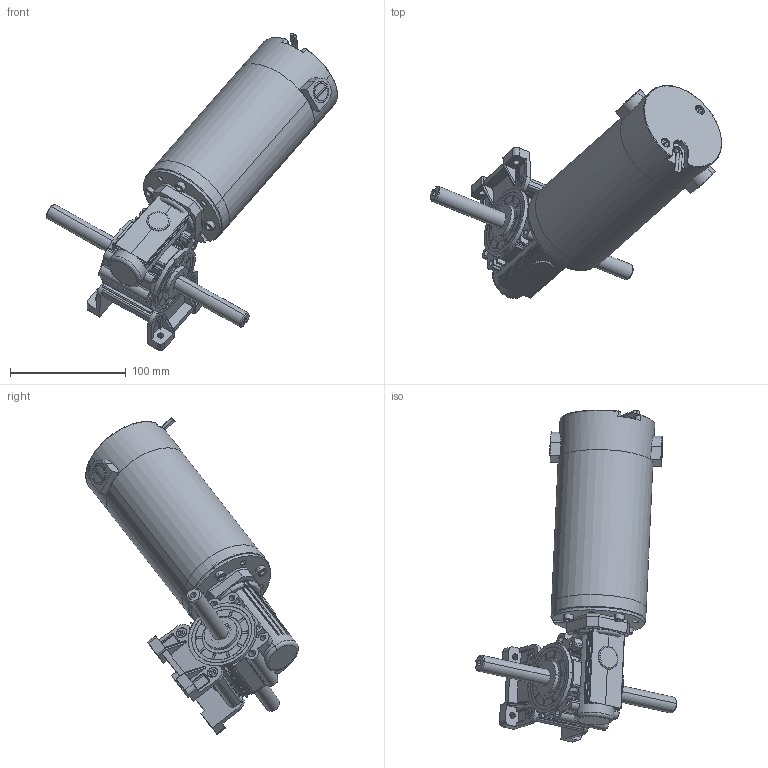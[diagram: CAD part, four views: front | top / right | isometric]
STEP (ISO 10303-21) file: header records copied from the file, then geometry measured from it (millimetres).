
FILE_DESCRIPTION (( 'STEP AP214' ), '1' );
FILE_NAME ('WG7185-2017.STEP', '2017-06-13T06:21:12', ( 'Sky123.Org' ), ( 'Sky123.Org' ), 'SwSTEP 2.0', 'SolidWorks 2015', '' );
FILE_SCHEMA (( 'AUTOMOTIVE_DESIGN' ));
Length unit declared in the file: millimetre
Products named in the file (11): 7185-erin2; heavy duty external retaining ring_am_B27.8M - 3DM1-15; socket head cap screw_am_B18.3.1M - 5 x 0.8 x 8 Hex SHCS -- 8NHX; 傳動軸2; cross recessed countersunk head screw_jis_JIS 1111 Cross recessed countersunk head screw - M5 x 12 - Z --12N; 組合件2^WG7185-2017; 組合件3^WG7185-2017; 齒輪箱固定架; 組合件5^WG7185-2017; 齒輪箱外型組合; WG7185-2017
Assembly tree (17 placements, depth 3):
  WG7185-2017
    組合件5^WG7185-2017
      齒輪箱外型組合
    組合件3^WG7185-2017
      齒輪箱固定架
    組合件2^WG7185-2017
      齒輪箱固定架
    cross recessed countersunk head screw_jis_JIS 1111 Cross recessed countersunk head screw - M5 x 12 - Z --12N  x4
    傳動軸2
    socket head cap screw_am_B18.3.1M - 5 x 0.8 x 8 Hex SHCS -- 8NHX  x3
    heavy duty external retaining ring_am_B27.8M - 3DM1-15  x2
    7185-erin2
Bounding box: 251.7 x 183.94 x 274.14 mm (x, y, z)
Volume: 1168163.1 mm3; surface area: 214975.9 mm2
Topology: 44 solids, 44 shells, 1127 faces, 2869 edges, 1839 vertices
Faces by surface type: plane 530, cylinder 470, cone 75, torus 48, sphere 4
Entity records: 35614 total; most frequent: CARTESIAN_POINT 6341, DIRECTION 4726, ORIENTED_EDGE 4506, EDGE_CURVE 2253, AXIS2_PLACEMENT_3D 1751, VERTEX_POINT 1476, LINE 1224, VECTOR 1224
